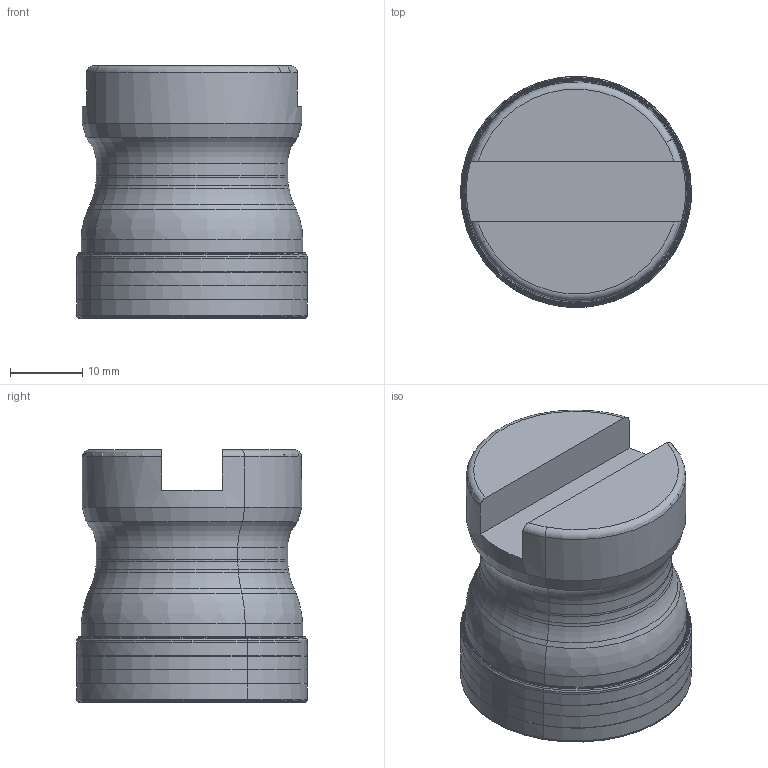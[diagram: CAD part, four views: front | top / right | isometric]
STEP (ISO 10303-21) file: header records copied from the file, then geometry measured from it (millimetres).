
FILE_DESCRIPTION(('CATIA V5 STEP','CAx-IF Rec.Pracs.--- Model Styling and Organization---1.2---2011-12-15'),'2;1');
FILE_NAME('N:\data\isr\design\special1\users\EVA_U\Requests\NPA\3106660_H690 F90AX D032-4-16-10\H690 F90AX D032-4-16-10.stp','2015-05-03T07:21:26+00:00',('none'),('none'),'CATIA Version 5 Release 21 SP 5 (IN-10)','CATIA V5 STEP AP214','none');
FILE_SCHEMA(('AUTOMOTIVE_DESIGN { 1 0 10303 214 1 1 1 1 }'));
Length unit declared in the file: millimetre
Products named in the file (1): H690 F90AX D032-4-16-10
Bounding box: 32 x 31.99 x 35 mm (x, y, z)
Volume: 25551.9 mm3; surface area: 7116 mm2
Topology: 2 solids, 2 shells, 162 faces, 336 edges, 176 vertices
Faces by surface type: cone 80, torus 42, cylinder 18, revolution 16, plane 6
Entity records: 4502 total; most frequent: CARTESIAN_POINT 1193, ORIENTED_EDGE 672, DIRECTION 617, AXIS2_PLACEMENT_3D 349, EDGE_CURVE 336, CIRCLE 201, VERTEX_POINT 176, ADVANCED_FACE 162
